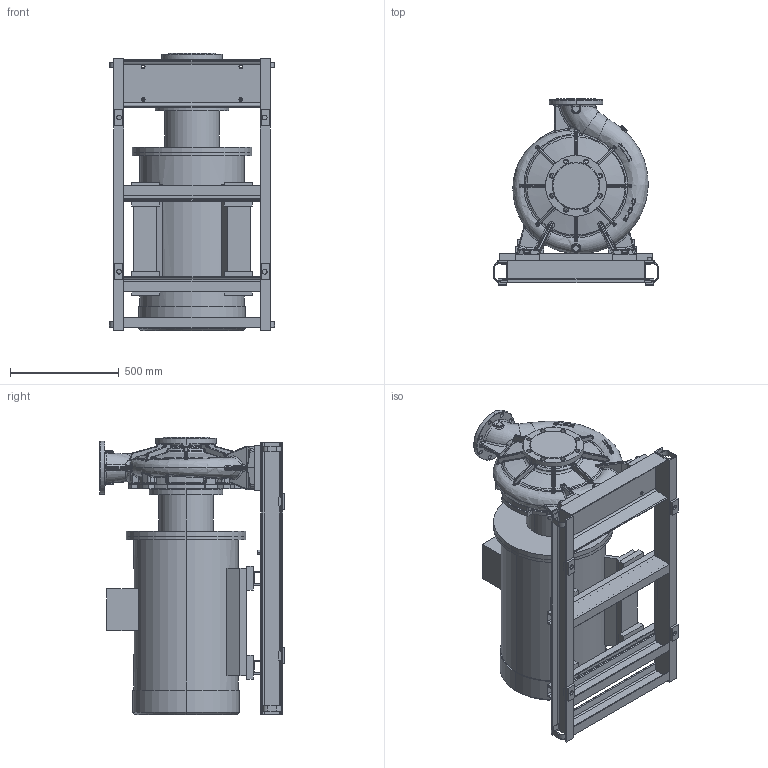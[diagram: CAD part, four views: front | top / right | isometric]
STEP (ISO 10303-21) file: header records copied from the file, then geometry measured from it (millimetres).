
FILE_DESCRIPTION (( 'STEP AP203' ), '1' );
FILE_NAME ('KRM150-125-400-4-90.STEP', '2026-09-08T11:53:44', ( '' ), ( '' ), 'SwSTEP 2.0', 'SolidWorks 2016', '' );
FILE_SCHEMA (( 'CONFIG_CONTROL_DESIGN' ));
Length unit declared in the file: millimetre
Products named in the file (1): KRM150-125-400-4-90
Bounding box: 759.61 x 855 x 1275.8 mm (x, y, z)
Volume: 236697946.4 mm3; surface area: 7598055.8 mm2
Topology: 31 solids, 31 shells, 1983 faces, 4954 edges, 3005 vertices
Faces by surface type: bspline 797, plane 508, cylinder 416, torus 130, cone 94, sphere 38
Entity records: 126444 total; most frequent: CARTESIAN_POINT 85156, ORIENTED_EDGE 9800, DIRECTION 6978, EDGE_CURVE 4900, VERTEX_POINT 3005, AXIS2_PLACEMENT_3D 2725, EDGE_LOOP 2103, ADVANCED_FACE 1983
